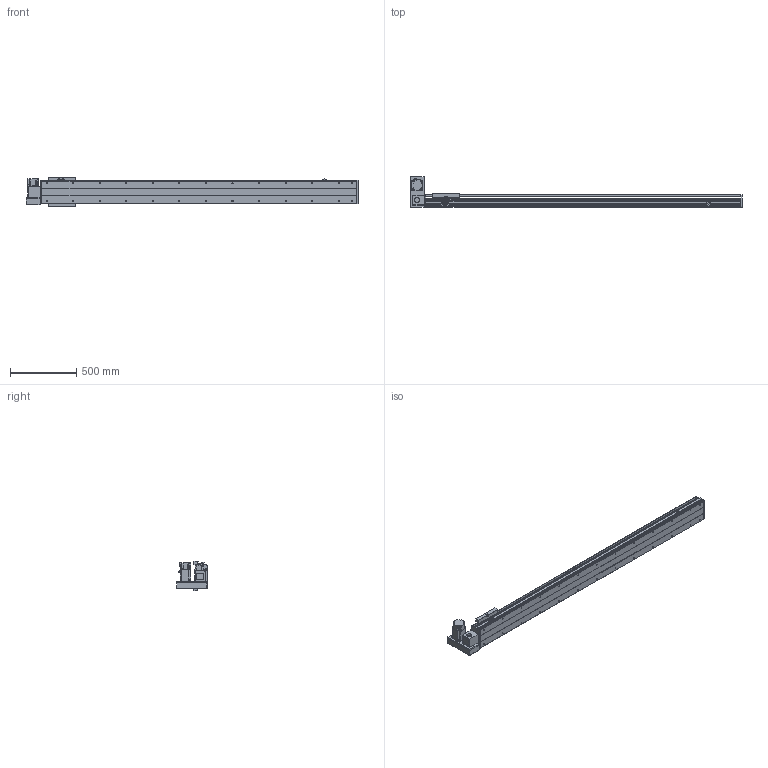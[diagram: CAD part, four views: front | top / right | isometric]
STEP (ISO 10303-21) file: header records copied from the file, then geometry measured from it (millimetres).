
FILE_DESCRIPTION(/* description */ ('STEP AP214'),/* implementation_level */ '2;1');
FILE_NAME(/* name */ 'PBS200-P40-S2000-LU-T75-C1-N(0)',/* time_stamp */ '2022-06-11T09:01:31+02:00',/* author */ ('License CC BY-ND 4.0'),/* organization */ ('CADENAS'),/* preprocessor_version */ 'ST-DEVELOPER v18.102',/* originating_system */ 'PARTsolutions',/* authorisation */ ' ');
FILE_SCHEMA (('AUTOMOTIVE_DESIGN {1 0 10303 214 3 1 1}'));
Length unit declared in the file: millimetre
Products named in the file (7): PBS200-P40-S2000-LU-T75-C1-N(0); PBS200_sensor; PBS200_plant; PBS200_sliser; T75-p1; PBS200T-LU_motors; PBS200-S2000()_body
Assembly tree (8 placements, depth 2):
  PBS200-P40-S2000-LU-T75-C1-N(0)
    PBS200_sensor  x3
    PBS200_plant
    PBS200_sliser
    T75-p1
    PBS200T-LU_motors
    PBS200-S2000()_body
Bounding box: 2500 x 231 x 221 mm (x, y, z)
Volume: 17481570.7 mm3; surface area: 2804162.7 mm2
Topology: 8 solids, 8 shells, 950 faces, 2424 edges, 1578 vertices
Faces by surface type: plane 584, cylinder 308, cone 58
Full cylindrical faces by diameter (mm): 2.459 x6, 3.242 x4, 4.5 x6, 4.917 x4, 5 x6, 6 x7, 6.6 x8, 6.647 x30, 8 x6, 10 x4, 12 x8, 38 x2, 40 x1, 70 x1
Entity records: 25181 total; most frequent: DIRECTION 4447, CARTESIAN_POINT 4282, ORIENTED_EDGE 4042, EDGE_CURVE 2021, AXIS2_PLACEMENT_3D 1567, VERTEX_POINT 1402, LINE 1313, VECTOR 1313
